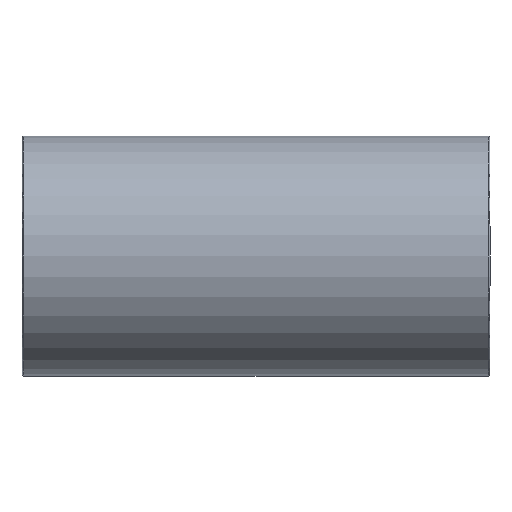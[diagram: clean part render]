
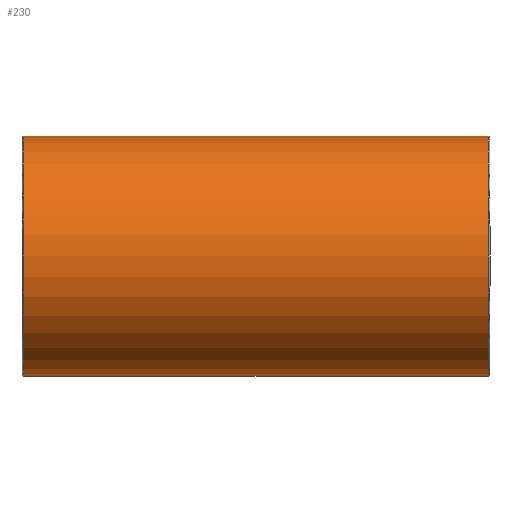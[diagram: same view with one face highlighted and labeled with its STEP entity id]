
A CAD part, front view. The second image highlights one B-rep face of the part: STEP entity #230.
In plain terms, the highlighted cylindrical face has radius 20 mm (diameter 40 mm), a full revolution.
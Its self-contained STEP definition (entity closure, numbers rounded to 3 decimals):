
#15=ELLIPSE('',#253,28.284,20.);
#16=ELLIPSE('',#254,28.284,20.);
#21=CYLINDRICAL_SURFACE('',#259,20.);
#38=FACE_BOUND('',#85,.T.);
#39=FACE_BOUND('',#86,.T.);
#59=FACE_OUTER_BOUND('',#84,.T.);
#84=EDGE_LOOP('',(#187));
#85=EDGE_LOOP('',(#188,#189));
#86=EDGE_LOOP('',(#190));
#118=CIRCLE('',#260,20.);
#119=CIRCLE('',#261,20.);
#134=VERTEX_POINT('',#383);
#135=VERTEX_POINT('',#384);
#138=VERTEX_POINT('',#394);
#139=VERTEX_POINT('',#396);
#156=EDGE_CURVE('',#134,#135,#15,.T.);
#157=EDGE_CURVE('',#135,#134,#16,.T.);
#160=EDGE_CURVE('',#138,#138,#118,.T.);
#161=EDGE_CURVE('',#139,#139,#119,.T.);
#187=ORIENTED_EDGE('',*,*,#160,.F.);
#188=ORIENTED_EDGE('',*,*,#156,.T.);
#189=ORIENTED_EDGE('',*,*,#157,.T.);
#190=ORIENTED_EDGE('',*,*,#161,.F.);
#230=ADVANCED_FACE('',(#59,#38,#39),#21,.T.);
#253=AXIS2_PLACEMENT_3D('',#385,#304,#305);
#254=AXIS2_PLACEMENT_3D('',#386,#306,#307);
#259=AXIS2_PLACEMENT_3D('',#393,#316,#317);
#260=AXIS2_PLACEMENT_3D('',#395,#318,#319);
#261=AXIS2_PLACEMENT_3D('',#397,#320,#321);
#304=DIRECTION('center_axis',(0.707,-0.707,0.));
#305=DIRECTION('ref_axis',(-0.707,-0.707,0.));
#306=DIRECTION('center_axis',(-0.707,-0.707,0.));
#307=DIRECTION('ref_axis',(-0.707,0.707,0.));
#316=DIRECTION('center_axis',(1.,0.,0.));
#317=DIRECTION('ref_axis',(0.,1.,0.));
#318=DIRECTION('center_axis',(-1.,0.,0.));
#319=DIRECTION('ref_axis',(0.,-1.,0.));
#320=DIRECTION('center_axis',(1.,0.,0.));
#321=DIRECTION('ref_axis',(0.,-1.,0.));
#383=CARTESIAN_POINT('',(0.,0.,-20.));
#384=CARTESIAN_POINT('',(0.,0.,20.));
#385=CARTESIAN_POINT('Origin',(0.,0.,0.));
#386=CARTESIAN_POINT('Origin',(0.,0.,0.));
#393=CARTESIAN_POINT('Origin',(0.,0.,
0.));
#394=CARTESIAN_POINT('',(-38.68,20.,0.));
#395=CARTESIAN_POINT('Origin',(-38.68,0.,0.));
#396=CARTESIAN_POINT('',(38.68,20.,0.));
#397=CARTESIAN_POINT('Origin',(38.68,0.,0.));
